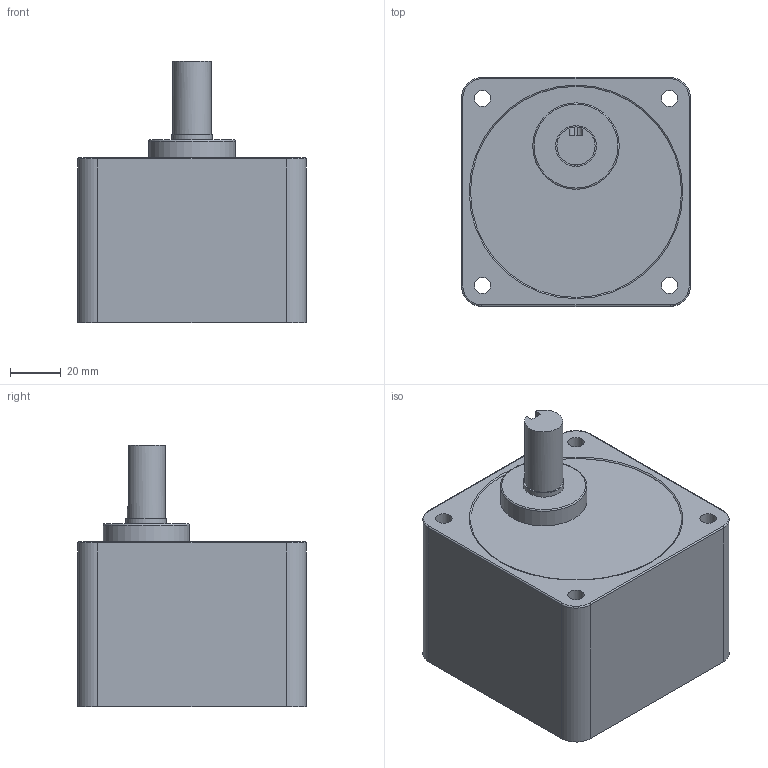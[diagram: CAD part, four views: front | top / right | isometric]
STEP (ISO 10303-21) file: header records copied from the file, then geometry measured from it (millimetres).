
FILE_DESCRIPTION((''),'2;1');
FILE_NAME('E:\2공장-도면\3D\표준형 3D(민규)\step file\감속기\K9PㅁB.stp','2014-11-13T15:52:07',('AHN'),(''),'Autodesk Inventor 2012','Autodesk Inventor 2012','');
FILE_SCHEMA(('CONFIG_CONTROL_DESIGN'));
Length unit declared in the file: millimetre
Products named in the file (1): K9PㅁB
Bounding box: 90 x 90 x 103 mm (x, y, z)
Volume: 523488.5 mm3; surface area: 46029.2 mm2
Topology: 1 solids, 1 shells, 37 faces, 84 edges, 53 vertices
Faces by surface type: cylinder 17, plane 14, torus 6
Full cylindrical faces by diameter (mm): 6.5 x4, 15 x1, 16 x1, 34 x1
Entity records: 1048 total; most frequent: DIRECTION 188, CARTESIAN_POINT 182, ORIENTED_EDGE 148, AXIS2_PLACEMENT_3D 78, EDGE_CURVE 74, EDGE_LOOP 58, VERTEX_POINT 52, CIRCLE 40
